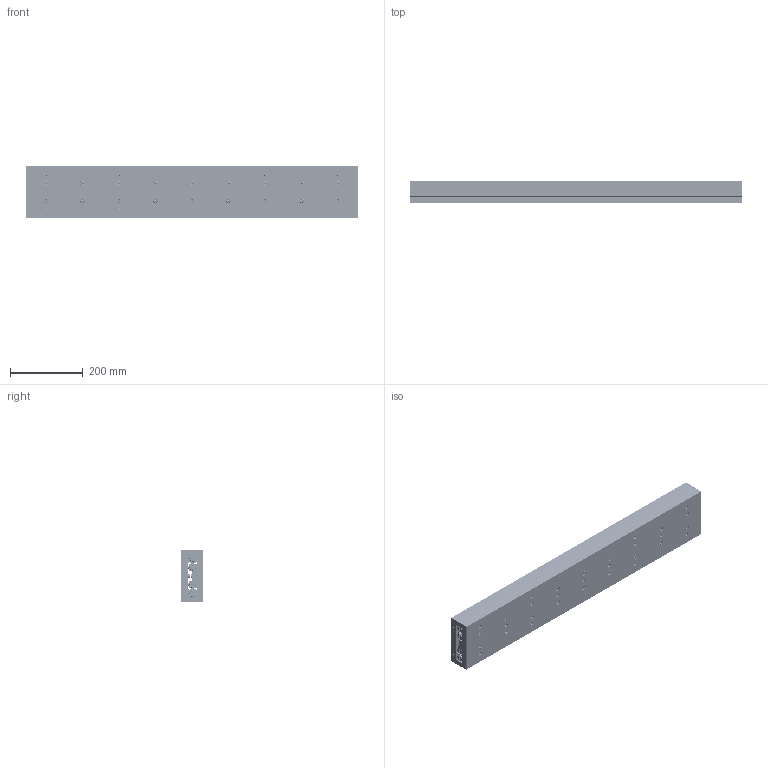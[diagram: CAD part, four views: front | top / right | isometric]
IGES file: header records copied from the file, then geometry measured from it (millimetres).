
Start section: SolidWorks IGES file using analytic representation for surfaces
Global section: file name: C:\Documents and Settings\IanO.IANOHOME\My Documents\Wix and Auto CAD Work\CAD Models\Parametric Models\Auto Models\L1020\L1020_IGES\L1020.145-910.igs; native system: SolidWorks 2009; preprocessor: SolidWorks 2009; author: IanO; date: 110922.163434; units: millimetre
Bounding box: 910 x 60 x 145 mm (x, y, z)
Surface area: 1221408 mm2 (no closed solid volume)
Topology: 0 solids, 0 shells, 3056 faces, 45940 edges, 45850 vertices
Faces by surface type: bspline 1918, revolution 1138
